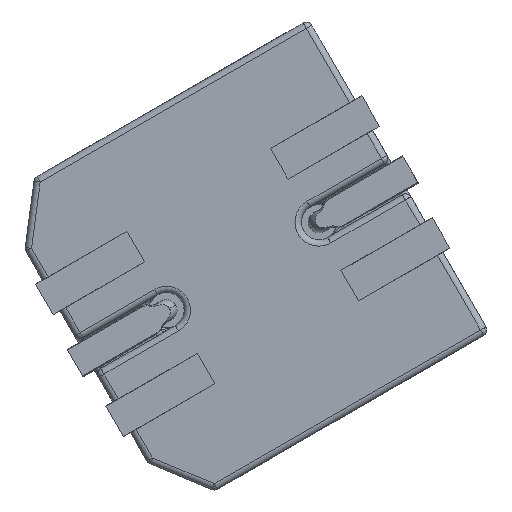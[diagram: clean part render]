
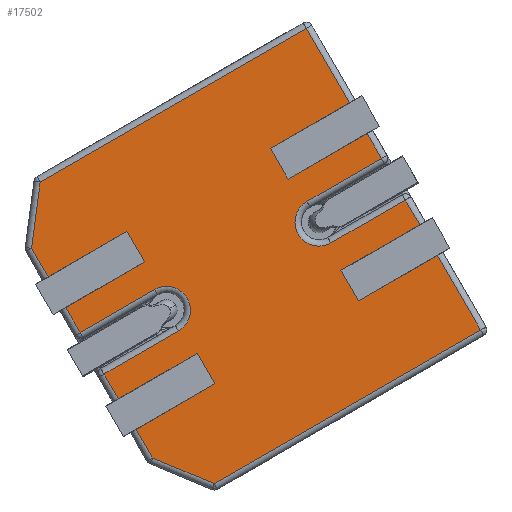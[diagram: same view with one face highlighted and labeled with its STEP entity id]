
A CAD part, left-side view. The second image highlights one B-rep face of the part: STEP entity #17502.
In plain terms, the highlighted planar face has unit normal (-1, 0, 0) as drawn and (0, -1, 0) by its records, which use the part's own axes.
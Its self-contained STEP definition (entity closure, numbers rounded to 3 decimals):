
#14676=DIRECTION('',(0.,0.,-1.));
#14677=VECTOR('',#14676,2.59);
#14678=CARTESIAN_POINT('',(1.5,0.,4.945));
#14679=LINE('',#14678,#14677);
#14680=DIRECTION('',(1.,0.,0.));
#14681=VECTOR('',#14680,1.);
#14682=CARTESIAN_POINT('',(1.5,0.,2.355));
#14683=LINE('',#14682,#14681);
#14684=DIRECTION('',(0.,0.,-1.));
#14685=VECTOR('',#14684,2.59);
#14686=CARTESIAN_POINT('',(2.5,0.,4.945));
#14687=LINE('',#14686,#14685);
#14688=DIRECTION('',(-1.,0.,0.));
#14689=VECTOR('',#14688,0.939);
#14690=CARTESIAN_POINT('',(3.439,0.,4.945));
#14691=LINE('',#14690,#14689);
#14692=DIRECTION('',(-0.794,0.,0.609));
#14693=VECTOR('',#14692,1.904);
#14694=CARTESIAN_POINT('',(4.95,0.,3.786));
#14695=LINE('',#14694,#14693);
#14696=DIRECTION('',(0.,0.,1.));
#14697=VECTOR('',#14696,8.731);
#14698=CARTESIAN_POINT('',(4.95,0.,-4.945));
#14699=LINE('',#14698,#14697);
#14700=DIRECTION('',(1.,0.,0.));
#14701=VECTOR('',#14700,2.45);
#14702=CARTESIAN_POINT('',(2.5,0.,-4.945));
#14703=LINE('',#14702,#14701);
#14704=DIRECTION('',(0.,0.,1.));
#14705=VECTOR('',#14704,2.59);
#14706=CARTESIAN_POINT('',(2.5,0.,-4.945));
#14707=LINE('',#14706,#14705);
#14708=DIRECTION('',(-1.,0.,0.));
#14709=VECTOR('',#14708,1.);
#14710=CARTESIAN_POINT('',(2.5,0.,-2.355));
#14711=LINE('',#14710,#14709);
#14712=DIRECTION('',(0.,0.,1.));
#14713=VECTOR('',#14712,2.59);
#14714=CARTESIAN_POINT('',(1.5,0.,-4.945));
#14715=LINE('',#14714,#14713);
#14716=DIRECTION('',(1.,0.,0.));
#14717=VECTOR('',#14716,0.82);
#14718=CARTESIAN_POINT('',(0.68,0.,-4.945));
#14719=LINE('',#14718,#14717);
#14720=DIRECTION('',(0.,0.,-1.));
#14721=VECTOR('',#14720,2.445);
#14722=CARTESIAN_POINT('',(0.68,0.,-2.5));
#14723=LINE('',#14722,#14721);
#14724=DIRECTION('',(0.,0.,1.));
#14725=VECTOR('',#14724,2.445);
#14726=CARTESIAN_POINT('',(-0.68,0.,-4.945));
#14727=LINE('',#14726,#14725);
#14728=DIRECTION('',(1.,0.,0.));
#14729=VECTOR('',#14728,0.82);
#14730=CARTESIAN_POINT('',(-1.5,0.,-4.945));
#14731=LINE('',#14730,#14729);
#14732=DIRECTION('',(0.,0.,1.));
#14733=VECTOR('',#14732,2.59);
#14734=CARTESIAN_POINT('',(-1.5,0.,-4.945));
#14735=LINE('',#14734,#14733);
#14736=DIRECTION('',(-1.,0.,0.));
#14737=VECTOR('',#14736,1.);
#14738=CARTESIAN_POINT('',(-1.5,0.,-2.355));
#14739=LINE('',#14738,#14737);
#14740=DIRECTION('',(0.,0.,1.));
#14741=VECTOR('',#14740,2.59);
#14742=CARTESIAN_POINT('',(-2.5,0.,-4.945));
#14743=LINE('',#14742,#14741);
#14744=DIRECTION('',(1.,0.,0.));
#14745=VECTOR('',#14744,2.45);
#14746=CARTESIAN_POINT('',(-4.95,0.,-4.945));
#14747=LINE('',#14746,#14745);
#14748=DIRECTION('',(0.,0.,1.));
#14749=VECTOR('',#14748,8.731);
#14750=CARTESIAN_POINT('',(-4.95,0.,-4.945));
#14751=LINE('',#14750,#14749);
#14752=DIRECTION('',(-0.794,0.,-0.609));
#14753=VECTOR('',#14752,1.904);
#14754=CARTESIAN_POINT('',(-3.439,0.,4.945));
#14755=LINE('',#14754,#14753);
#14756=DIRECTION('',(-1.,0.,0.));
#14757=VECTOR('',#14756,0.939);
#14758=CARTESIAN_POINT('',(-2.5,0.,4.945));
#14759=LINE('',#14758,#14757);
#14760=DIRECTION('',(0.,0.,-1.));
#14761=VECTOR('',#14760,2.59);
#14762=CARTESIAN_POINT('',(-2.5,0.,4.945));
#14763=LINE('',#14762,#14761);
#14764=DIRECTION('',(1.,0.,0.));
#14765=VECTOR('',#14764,1.);
#14766=CARTESIAN_POINT('',(-2.5,0.,2.355));
#14767=LINE('',#14766,#14765);
#14768=DIRECTION('',(0.,0.,-1.));
#14769=VECTOR('',#14768,2.59);
#14770=CARTESIAN_POINT('',(-1.5,0.,4.945));
#14771=LINE('',#14770,#14769);
#14772=DIRECTION('',(-1.,0.,0.));
#14773=VECTOR('',#14772,0.82);
#14774=CARTESIAN_POINT('',(-0.68,0.,4.945));
#14775=LINE('',#14774,#14773);
#14776=DIRECTION('',(0.,0.,1.));
#14777=VECTOR('',#14776,2.445);
#14778=CARTESIAN_POINT('',(-0.68,0.,2.5));
#14779=LINE('',#14778,#14777);
#14780=DIRECTION('',(0.,0.,-1.));
#14781=VECTOR('',#14780,2.445);
#14782=CARTESIAN_POINT('',(0.68,0.,4.945));
#14783=LINE('',#14782,#14781);
#14784=DIRECTION('',(-1.,0.,0.));
#14785=VECTOR('',#14784,0.82);
#14786=CARTESIAN_POINT('',(1.5,0.,4.945));
#14787=LINE('',#14786,#14785);
#16736=CARTESIAN_POINT('',(0.,0.,2.5));
#16737=DIRECTION('',(0.,1.,0.));
#16738=DIRECTION('',(1.,0.,0.));
#16739=AXIS2_PLACEMENT_3D('',#16736,#16737,#16738);
#16913=CARTESIAN_POINT('',(0.,0.,-2.5));
#16914=DIRECTION('',(0.,1.,0.));
#16915=DIRECTION('',(-1.,0.,0.));
#16916=AXIS2_PLACEMENT_3D('',#16913,#16914,#16915);
#17087=CARTESIAN_POINT('',(4.95,0.,-4.945));
#17088=CARTESIAN_POINT('',(4.95,0.,3.786));
#17089=VERTEX_POINT('',#17087);
#17090=VERTEX_POINT('',#17088);
#17091=CARTESIAN_POINT('',(-4.95,0.,3.786));
#17093=VERTEX_POINT('',#17091);
#17096=CARTESIAN_POINT('',(-3.439,0.,4.945));
#17098=VERTEX_POINT('',#17096);
#17157=CARTESIAN_POINT('',(-0.68,0.,-2.5));
#17158=CARTESIAN_POINT('',(0.68,0.,-2.5));
#17159=VERTEX_POINT('',#17157);
#17160=VERTEX_POINT('',#17158);
#17167=CARTESIAN_POINT('',(0.68,0.,2.5));
#17168=VERTEX_POINT('',#17167);
#17169=CARTESIAN_POINT('',(-0.68,0.,2.5));
#17170=VERTEX_POINT('',#17169);
#17191=CARTESIAN_POINT('',(3.439,0.,4.945));
#17192=VERTEX_POINT('',#17191);
#17219=CARTESIAN_POINT('',(-0.68,0.,-4.945));
#17220=VERTEX_POINT('',#17219);
#17221=CARTESIAN_POINT('',(0.68,0.,-4.945));
#17222=VERTEX_POINT('',#17221);
#17225=CARTESIAN_POINT('',(0.68,0.,4.945));
#17226=VERTEX_POINT('',#17225);
#17227=CARTESIAN_POINT('',(-0.68,0.,4.945));
#17228=VERTEX_POINT('',#17227);
#17255=CARTESIAN_POINT('',(-4.95,0.,-4.945));
#17256=VERTEX_POINT('',#17255);
#17403=CARTESIAN_POINT('',(-2.5,0.,4.945));
#17404=VERTEX_POINT('',#17403);
#17405=CARTESIAN_POINT('',(-1.5,0.,4.945));
#17406=VERTEX_POINT('',#17405);
#17407=CARTESIAN_POINT('',(-1.5,0.,-4.945));
#17408=VERTEX_POINT('',#17407);
#17409=CARTESIAN_POINT('',(-2.5,0.,-4.945));
#17410=VERTEX_POINT('',#17409);
#17411=CARTESIAN_POINT('',(2.5,0.,-4.945));
#17412=VERTEX_POINT('',#17411);
#17413=CARTESIAN_POINT('',(1.5,0.,-4.945));
#17414=VERTEX_POINT('',#17413);
#17415=CARTESIAN_POINT('',(1.5,0.,4.945));
#17416=VERTEX_POINT('',#17415);
#17417=CARTESIAN_POINT('',(2.5,0.,4.945));
#17418=VERTEX_POINT('',#17417);
#17419=CARTESIAN_POINT('',(1.5,0.,2.355));
#17420=VERTEX_POINT('',#17419);
#17421=CARTESIAN_POINT('',(2.5,0.,2.355));
#17422=VERTEX_POINT('',#17421);
#17423=CARTESIAN_POINT('',(-2.5,0.,2.355));
#17424=VERTEX_POINT('',#17423);
#17425=CARTESIAN_POINT('',(-1.5,0.,2.355));
#17426=VERTEX_POINT('',#17425);
#17427=CARTESIAN_POINT('',(2.5,0.,-2.355));
#17428=VERTEX_POINT('',#17427);
#17429=CARTESIAN_POINT('',(1.5,0.,-2.355));
#17430=VERTEX_POINT('',#17429);
#17431=CARTESIAN_POINT('',(-1.5,0.,-2.355));
#17432=VERTEX_POINT('',#17431);
#17433=CARTESIAN_POINT('',(-2.5,0.,-2.355));
#17434=VERTEX_POINT('',#17433);
#17435=CARTESIAN_POINT('',(0.,0.,0.));
#17436=DIRECTION('',(0.,1.,0.));
#17437=DIRECTION('',(0.,0.,1.));
#17438=AXIS2_PLACEMENT_3D('',#17435,#17436,#17437);
#17439=PLANE('',#17438);
#17441=ORIENTED_EDGE('',*,*,#17440,.T.);
#17443=ORIENTED_EDGE('',*,*,#17442,.T.);
#17445=ORIENTED_EDGE('',*,*,#17444,.F.);
#17447=ORIENTED_EDGE('',*,*,#17446,.F.);
#17449=ORIENTED_EDGE('',*,*,#17448,.F.);
#17451=ORIENTED_EDGE('',*,*,#17450,.F.);
#17453=ORIENTED_EDGE('',*,*,#17452,.F.);
#17455=ORIENTED_EDGE('',*,*,#17454,.T.);
#17457=ORIENTED_EDGE('',*,*,#17456,.T.);
#17459=ORIENTED_EDGE('',*,*,#17458,.F.);
#17461=ORIENTED_EDGE('',*,*,#17460,.F.);
#17463=ORIENTED_EDGE('',*,*,#17462,.F.);
#17465=ORIENTED_EDGE('',*,*,#17464,.F.);
#17467=ORIENTED_EDGE('',*,*,#17466,.F.);
#17469=ORIENTED_EDGE('',*,*,#17468,.F.);
#17471=ORIENTED_EDGE('',*,*,#17470,.T.);
#17473=ORIENTED_EDGE('',*,*,#17472,.T.);
#17475=ORIENTED_EDGE('',*,*,#17474,.F.);
#17477=ORIENTED_EDGE('',*,*,#17476,.F.);
#17479=ORIENTED_EDGE('',*,*,#17478,.T.);
#17481=ORIENTED_EDGE('',*,*,#17480,.F.);
#17483=ORIENTED_EDGE('',*,*,#17482,.F.);
#17485=ORIENTED_EDGE('',*,*,#17484,.T.);
#17487=ORIENTED_EDGE('',*,*,#17486,.T.);
#17489=ORIENTED_EDGE('',*,*,#17488,.F.);
#17491=ORIENTED_EDGE('',*,*,#17490,.F.);
#17493=ORIENTED_EDGE('',*,*,#17492,.F.);
#17495=ORIENTED_EDGE('',*,*,#17494,.F.);
#17497=ORIENTED_EDGE('',*,*,#17496,.F.);
#17499=ORIENTED_EDGE('',*,*,#17498,.F.);
#17500=EDGE_LOOP('',(#17441,#17443,#17445,#17447,#17449,#17451,#17453,#17455,
#17457,#17459,#17461,#17463,#17465,#17467,#17469,#17471,#17473,#17475,#17477,
#17479,#17481,#17483,#17485,#17487,#17489,#17491,#17493,#17495,#17497,#17499));
#17501=FACE_OUTER_BOUND('',#17500,.F.);
#17502=ADVANCED_FACE('',(#17501),#17439,.F.);
#16740=CIRCLE('',#16739,0.68);
#16917=CIRCLE('',#16916,0.68);
#17440=EDGE_CURVE('',#17416,#17420,#14679,.T.);
#17442=EDGE_CURVE('',#17420,#17422,#14683,.T.);
#17444=EDGE_CURVE('',#17418,#17422,#14687,.T.);
#17446=EDGE_CURVE('',#17192,#17418,#14691,.T.);
#17448=EDGE_CURVE('',#17090,#17192,#14695,.T.);
#17450=EDGE_CURVE('',#17089,#17090,#14699,.T.);
#17452=EDGE_CURVE('',#17412,#17089,#14703,.T.);
#17454=EDGE_CURVE('',#17412,#17428,#14707,.T.);
#17456=EDGE_CURVE('',#17428,#17430,#14711,.T.);
#17458=EDGE_CURVE('',#17414,#17430,#14715,.T.);
#17460=EDGE_CURVE('',#17222,#17414,#14719,.T.);
#17462=EDGE_CURVE('',#17160,#17222,#14723,.T.);
#17464=EDGE_CURVE('',#17159,#17160,#16917,.T.);
#17466=EDGE_CURVE('',#17220,#17159,#14727,.T.);
#17468=EDGE_CURVE('',#17408,#17220,#14731,.T.);
#17470=EDGE_CURVE('',#17408,#17432,#14735,.T.);
#17472=EDGE_CURVE('',#17432,#17434,#14739,.T.);
#17474=EDGE_CURVE('',#17410,#17434,#14743,.T.);
#17476=EDGE_CURVE('',#17256,#17410,#14747,.T.);
#17478=EDGE_CURVE('',#17256,#17093,#14751,.T.);
#17480=EDGE_CURVE('',#17098,#17093,#14755,.T.);
#17482=EDGE_CURVE('',#17404,#17098,#14759,.T.);
#17484=EDGE_CURVE('',#17404,#17424,#14763,.T.);
#17486=EDGE_CURVE('',#17424,#17426,#14767,.T.);
#17488=EDGE_CURVE('',#17406,#17426,#14771,.T.);
#17490=EDGE_CURVE('',#17228,#17406,#14775,.T.);
#17492=EDGE_CURVE('',#17170,#17228,#14779,.T.);
#17494=EDGE_CURVE('',#17168,#17170,#16740,.T.);
#17496=EDGE_CURVE('',#17226,#17168,#14783,.T.);
#17498=EDGE_CURVE('',#17416,#17226,#14787,.T.);
